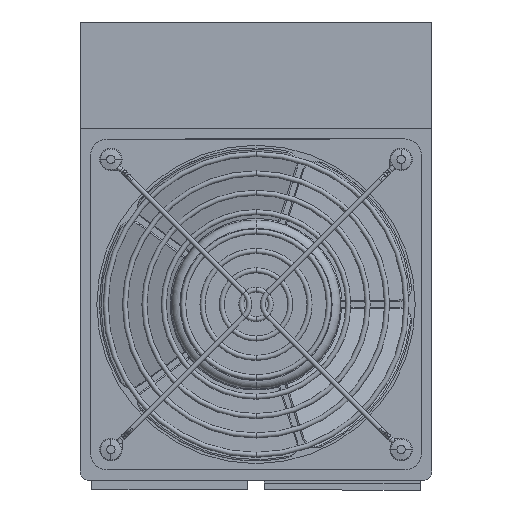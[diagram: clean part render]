
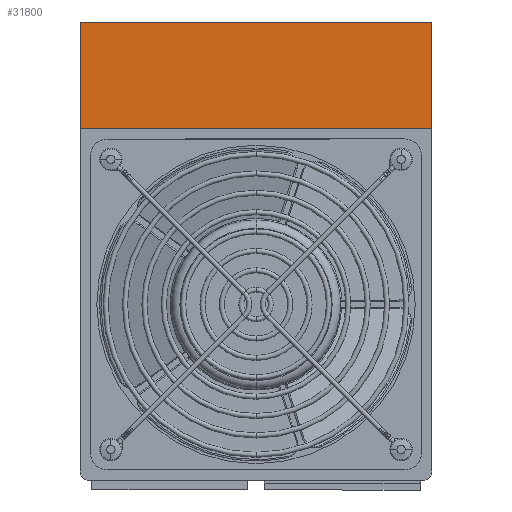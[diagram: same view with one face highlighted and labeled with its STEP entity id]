
A CAD part, front view. The second image highlights one B-rep face of the part: STEP entity #31800.
In plain terms, the highlighted planar face has unit normal (0, -1, 0).
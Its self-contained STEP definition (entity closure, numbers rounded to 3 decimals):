
#477 = EDGE_CURVE ( 'NONE', #3768, #28332, #23829, .T. ) ;
#638 = CARTESIAN_POINT ( 'NONE',  ( 127., -19., 127. ) ) ;
#2101 = DIRECTION ( 'NONE',  ( 0., 0., 1. ) ) ;
#2261 = VECTOR ( 'NONE', #13431, 1000. ) ;
#2545 = CARTESIAN_POINT ( 'NONE',  ( 127., -19., 165.5 ) ) ;
#3284 = EDGE_CURVE ( 'NONE', #25388, #26024, #10711, .T. ) ;
#3463 = EDGE_LOOP ( 'NONE', ( #32052, #6350, #4549, #17388 ) ) ;
#3768 = VERTEX_POINT ( 'NONE', #29560 ) ;
#4549 = ORIENTED_EDGE ( 'NONE', *, *, #3284, .T. ) ;
#6350 = ORIENTED_EDGE ( 'NONE', *, *, #16972, .T. ) ;
#7564 = CARTESIAN_POINT ( 'NONE',  ( 0., -19., 127. ) ) ;
#9077 = LINE ( 'NONE', #638, #21953 ) ;
#9843 = DIRECTION ( 'NONE',  ( 0., 1., 0. ) ) ;
#10168 = VECTOR ( 'NONE', #2101, 1000. ) ;
#10699 = FACE_OUTER_BOUND ( 'NONE', #3463, .T. ) ;
#10711 = LINE ( 'NONE', #31378, #2261 ) ;
#13069 = VECTOR ( 'NONE', #23104, 1000. ) ;
#13431 = DIRECTION ( 'NONE',  ( 0., 0., -1. ) ) ;
#16972 = EDGE_CURVE ( 'NONE', #28332, #25388, #25897, .T. ) ;
#17388 = ORIENTED_EDGE ( 'NONE', *, *, #30523, .T. ) ;
#17392 = CARTESIAN_POINT ( 'NONE',  ( 0., -19., 0. ) ) ;
#18393 = CARTESIAN_POINT ( 'NONE',  ( 127., -19., 165.5 ) ) ;
#19972 = CARTESIAN_POINT ( 'NONE',  ( 127., -19., 165.5 ) ) ;
#20086 = PLANE ( 'NONE',  #29189 ) ;
#21178 = DIRECTION ( 'NONE',  ( 1., 0., 0. ) ) ;
#21953 = VECTOR ( 'NONE', #21178, 1000. ) ;
#23104 = DIRECTION ( 'NONE',  ( -1., 0., 0. ) ) ;
#23829 = LINE ( 'NONE', #19972, #10168 ) ;
#25388 = VERTEX_POINT ( 'NONE', #26724 ) ;
#25897 = LINE ( 'NONE', #2545, #13069 ) ;
#26024 = VERTEX_POINT ( 'NONE', #7564 ) ;
#26724 = CARTESIAN_POINT ( 'NONE',  ( 0., -19., 165.5 ) ) ;
#27790 = DIRECTION ( 'NONE',  ( 0., 0., 1. ) ) ;
#28332 = VERTEX_POINT ( 'NONE', #18393 ) ;
#29189 = AXIS2_PLACEMENT_3D ( 'NONE', #17392, #9843, #27790 ) ;
#29560 = CARTESIAN_POINT ( 'NONE',  ( 127., -19., 127. ) ) ;
#30523 = EDGE_CURVE ( 'NONE', #26024, #3768, #9077, .T. ) ;
#31378 = CARTESIAN_POINT ( 'NONE',  ( 0., -19., 165.5 ) ) ;
#31800 = ADVANCED_FACE ( 'NONE', ( #10699 ), #20086, .F. ) ;
#32052 = ORIENTED_EDGE ( 'NONE', *, *, #477, .T. ) ;
